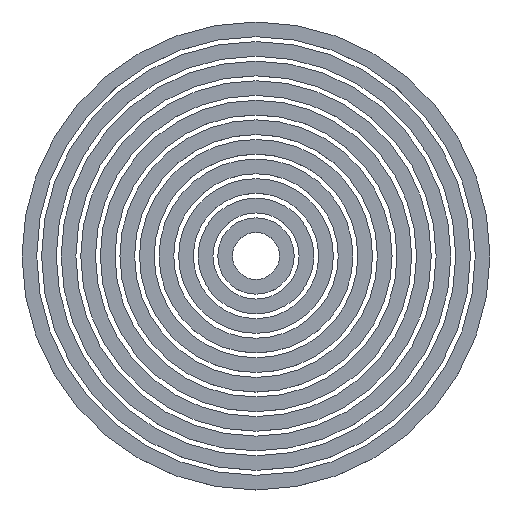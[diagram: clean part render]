
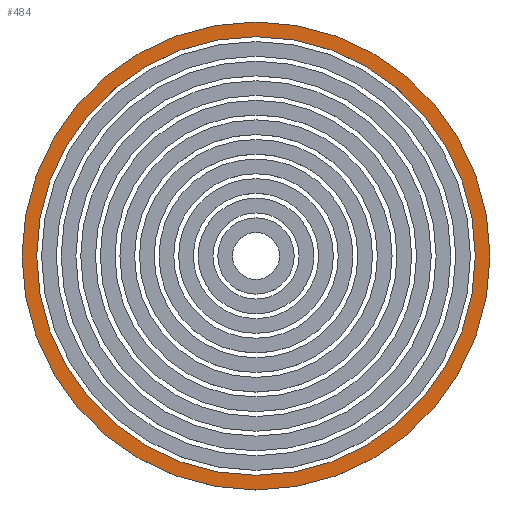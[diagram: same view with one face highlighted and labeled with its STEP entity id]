
A CAD part, top view. The second image highlights one B-rep face of the part: STEP entity #484.
In plain terms, the highlighted planar face has unit normal (0, 0, 1).
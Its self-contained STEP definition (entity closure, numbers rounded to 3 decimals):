
#365 = VERTEX_POINT ( 'NONE', #2232 ) ;
#368 = VERTEX_POINT ( 'NONE', #2222 ) ;
#397 = VERTEX_POINT ( 'NONE', #2284 ) ;
#417 = EDGE_LOOP ( 'NONE', ( #502, #483 ) ) ;
#430 = EDGE_CURVE ( 'NONE', #368, #397, #2379, .T. ) ;
#461 = EDGE_CURVE ( 'NONE', #462, #365, #2553, .T. ) ;
#462 = VERTEX_POINT ( 'NONE', #2540 ) ;
#483 = ORIENTED_EDGE ( 'NONE', *, *, #461, .T. ) ;
#484 = ADVANCED_FACE ( 'NONE', ( #4469, #4468 ), #4401, .T. ) ;
#485 = EDGE_LOOP ( 'NONE', ( #515, #513 ) ) ;
#502 = ORIENTED_EDGE ( 'NONE', *, *, #503, .T. ) ;
#503 = EDGE_CURVE ( 'NONE', #365, #462, #4375, .T. ) ;
#513 = ORIENTED_EDGE ( 'NONE', *, *, #520, .F. ) ;
#515 = ORIENTED_EDGE ( 'NONE', *, *, #430, .F. ) ;
#520 = EDGE_CURVE ( 'NONE', #397, #368, #4454, .T. ) ;
#2222 = CARTESIAN_POINT ( 'NONE',  ( -71.12, 0., 3.175 ) ) ;
#2232 = CARTESIAN_POINT ( 'NONE',  ( -75.883, 0., 3.175 ) ) ;
#2284 = CARTESIAN_POINT ( 'NONE',  ( 71.12, 0., 3.175 ) ) ;
#2379 = CIRCLE ( 'NONE', #2399, 71.12 ) ;
#2396 = DIRECTION ( 'NONE',  ( 1., 0., 0. ) ) ;
#2397 = DIRECTION ( 'NONE',  ( 0., 0., 1. ) ) ;
#2398 = CARTESIAN_POINT ( 'NONE',  ( 0., 0., 3.175 ) ) ;
#2399 = AXIS2_PLACEMENT_3D ( 'NONE', #2398, #2397, #2396 ) ;
#2540 = CARTESIAN_POINT ( 'NONE',  ( 75.883, 0., 3.175 ) ) ;
#2543 = DIRECTION ( 'NONE',  ( 1., 0., 0. ) ) ;
#2544 = DIRECTION ( 'NONE',  ( 0., 0., 1. ) ) ;
#2552 = AXIS2_PLACEMENT_3D ( 'NONE', #2559, #2544, #2543 ) ;
#2553 = CIRCLE ( 'NONE', #2552, 75.883 ) ;
#2559 = CARTESIAN_POINT ( 'NONE',  ( 0., 0., 3.175 ) ) ;
#4371 = DIRECTION ( 'NONE',  ( 1., 0., 0. ) ) ;
#4372 = DIRECTION ( 'NONE',  ( 0., 0., 1. ) ) ;
#4373 = CARTESIAN_POINT ( 'NONE',  ( 0., 0., 3.175 ) ) ;
#4374 = AXIS2_PLACEMENT_3D ( 'NONE', #4373, #4372, #4371 ) ;
#4375 = CIRCLE ( 'NONE', #4374, 75.883 ) ;
#4399 = DIRECTION ( 'NONE',  ( 1., 0., 0. ) ) ;
#4401 = PLANE ( 'NONE',  #4405 ) ;
#4404 = CARTESIAN_POINT ( 'NONE',  ( 0., 0., 3.175 ) ) ;
#4405 = AXIS2_PLACEMENT_3D ( 'NONE', #4404, #4406, #4399 ) ;
#4406 = DIRECTION ( 'NONE',  ( 0., 0., 1. ) ) ;
#4445 = CARTESIAN_POINT ( 'NONE',  ( 0., 0., 3.175 ) ) ;
#4449 = DIRECTION ( 'NONE',  ( 0., 0., 1. ) ) ;
#4453 = DIRECTION ( 'NONE',  ( 1., 0., 0. ) ) ;
#4454 = CIRCLE ( 'NONE', #4455, 71.12 ) ;
#4455 = AXIS2_PLACEMENT_3D ( 'NONE', #4445, #4449, #4453 ) ;
#4468 = FACE_BOUND ( 'NONE', #485, .T. ) ;
#4469 = FACE_OUTER_BOUND ( 'NONE', #417, .T. ) ;
